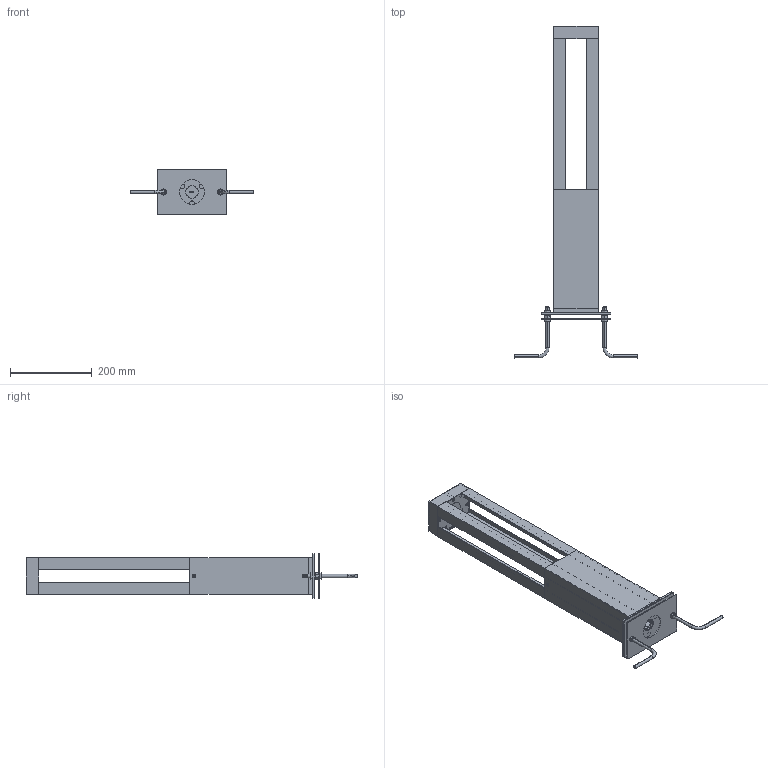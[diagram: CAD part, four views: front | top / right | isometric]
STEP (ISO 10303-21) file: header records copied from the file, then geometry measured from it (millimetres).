
FILE_DESCRIPTION((''),'2;1');
FILE_NAME('9AU-700_ASM','2024-09-02T',('Administrator'),(''),'CREO PARAMETRIC BY PTC INC, 2014500','CREO PARAMETRIC BY PTC INC, 2014500','');
FILE_SCHEMA(('CONFIG_CONTROL_DESIGN'));
Products named in the file (32): 9AU________W________ANY_ANY; 9AU________W_700_ANY-52879_ANY; 9AU________W_700_ANY-5566_ASM_A_ASM; 9AU__U_O_W__W___ANY_ANY; 9AU__U_O_W_M5_91_ANY_ANY; 9AU__U_O_W____Y_ANY_ANY; 9AU__U_O_W_700_ANY-5442_ANY; 9AU__U_O_W_700_ANY-29183_ASM_AN_ASM; 9AU__O_Y__________M4_105_ANY_AN; 9AU__O_Y__________ANY_ANY; 9AU______Q_U_ANY_ANY; 9AU__O_Y_ANY-4840_ANY; 9AU__________ANY_ANY; GY_ANY; GYZHUJIAN_ASM_ANY_ASM; 9AU__O_Y_____PC_ANY_ANY; 9AU__O_Y___________________ANY_; M3LUOZHU_1_ANY; BXKE-V8_; B51LENS_ANY; 9AU-YAQUAN; QUDONGBAN; 9AU__O_Y_ANY-28947_ASM_ANY_ASM; 9AU__U_O_W____Y_____L___ANY_1_A; 9AU__U_O_W____Y________L_ANY_AN; 9AU__U_O_W____L_W___ANY_ANY; 9AU__U_O_W____Y_____L______U_AN; 9AU__U_O_W____Y_____L______U___; 9AU__U_O_W____L_ANY_ANY; ___X__445_9AU__U_O_W____Y-75681_ASM; 9AU-JICHUZUO_ASM; 9AU-700_ASM
Assembly tree (53 placements, depth 4):
  9AU-700_ASM
    9AU________W_700_ANY-5566_ASM_A_ASM  x4
      9AU________W________ANY_ANY
      9AU________W_700_ANY-52879_ANY
    9AU__U_O_W_700_ANY-29183_ASM_AN_ASM
      9AU__U_O_W__W___ANY_ANY
      9AU__U_O_W_M5_91_ANY_ANY  x4
      9AU__U_O_W____Y_ANY_ANY
      9AU__U_O_W_700_ANY-5442_ANY
    9AU__O_Y_ANY-28947_ASM_ANY_ASM
      9AU__O_Y__________M4_105_ANY_AN  x8
      9AU__O_Y__________ANY_ANY
      9AU______Q_U_ANY_ANY
      9AU__O_Y_ANY-4840_ANY
      9AU__________ANY_ANY
      GYZHUJIAN_ASM_ANY_ASM
        GY_ANY
      9AU__O_Y_____PC_ANY_ANY
      9AU__O_Y___________________ANY_
      M3LUOZHU_1_ANY  x2
      BXKE-V8_
      B51LENS_ANY
      9AU-YAQUAN
      QUDONGBAN
    9AU-JICHUZUO_ASM
      9AU__U_O_W____Y_____L___ANY_1_A
      9AU__U_O_W____Y________L_ANY_AN
      9AU__U_O_W____L_W___ANY_ANY
      9AU__U_O_W____Y_____L______U_AN  x3
      9AU__U_O_W____Y_____L______U___
      9AU__U_O_W____L_ANY_ANY
      ___X__445_9AU__U_O_W____Y-75681_ASM
        9AU__U_O_W____Y_____L___ANY_1_A
        9AU__U_O_W____Y_____L______U_AN  x3
        9AU__U_O_W____Y_____L______U___
Bounding box: 302 x 812.55 x 110 mm (x, y, z)
Volume: 1212710.6 mm3; surface area: 887415.6 mm2
Topology: 53 solids, 53 shells, 2477 faces, 6596 edges, 4284 vertices
Faces by surface type: plane 1594, cylinder 523, cone 273, torus 40, bspline 36, sphere 8, extrusion 3
Entity records: 62957 total; most frequent: CARTESIAN_POINT 18248, ORIENTED_EDGE 9354, DIRECTION 8820, EDGE_CURVE 4677, VECTOR 3614, LINE 3611, VERTEX_POINT 3095, AXIS2_PLACEMENT_3D 2603
